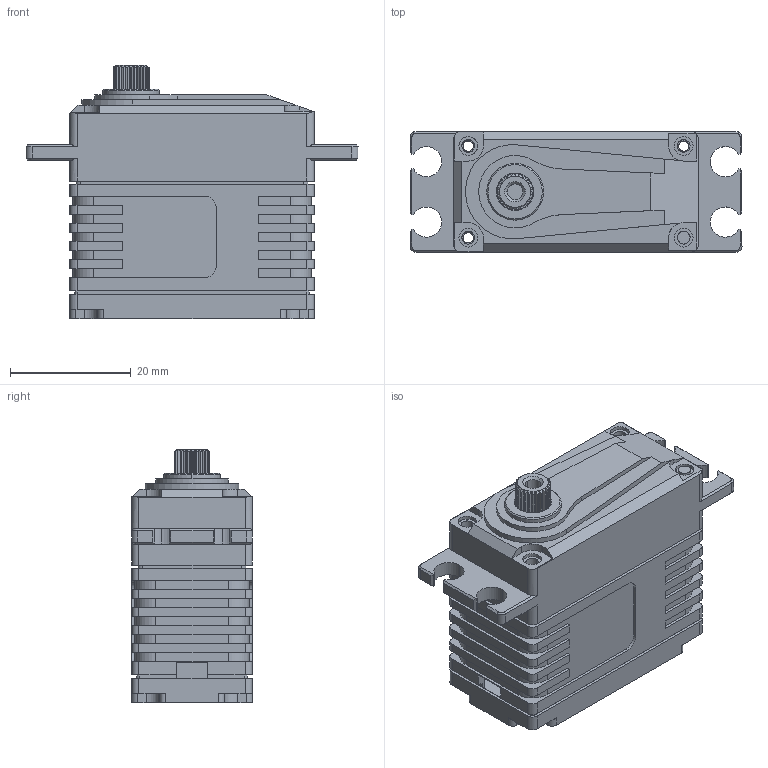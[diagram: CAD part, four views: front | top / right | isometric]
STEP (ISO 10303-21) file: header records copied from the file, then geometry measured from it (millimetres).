
FILE_DESCRIPTION (( 'STEP AP214' ), '1' );
FILE_NAME ('A20-3813_DM.STEP', '2020-03-13T05:47:30', ( '微软用户' ), ( '微软中国' ), 'SwSTEP 2.0', 'SolidWorks 2016', '' );
FILE_SCHEMA (( 'AUTOMOTIVE_DESIGN' ));
Length unit declared in the file: millimetre
Products named in the file (1): A20-3813_DM
Bounding box: 55 x 20 x 42 mm (x, y, z)
Surface area: 15423.5 mm2 (no closed solid volume)
Topology: 0 solids, 10 shells, 759 faces, 2062 edges, 1352 vertices
Faces by surface type: plane 365, cylinder 330, cone 60, bspline 4
Entity records: 25974 total; most frequent: CARTESIAN_POINT 6713, ORIENTED_EDGE 4096, DIRECTION 3908, EDGE_CURVE 2062, AXIS2_PLACEMENT_3D 1375, VERTEX_POINT 1352, LINE 1158, VECTOR 1158
